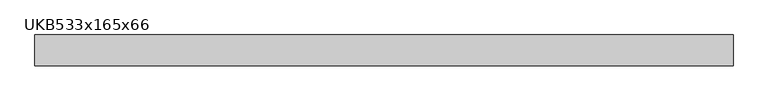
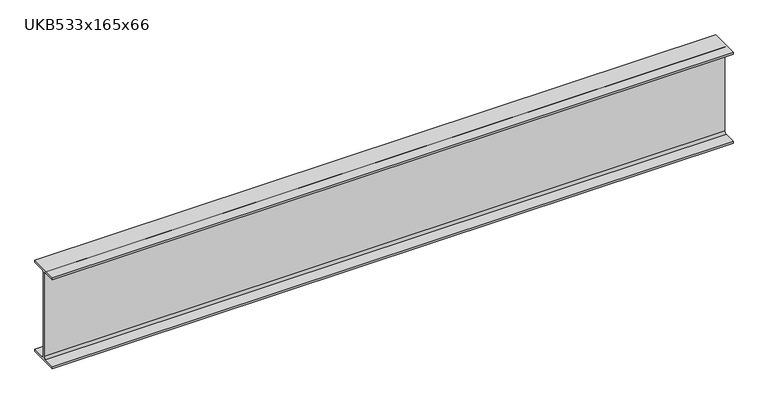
"""IFC4 building model written with IfcOpenShell, lengths in millimetres: beam geometry, UKB-UK Beams : UKB533x165x66."""

import ifcopenshell
import ifcopenshell.guid

model = None  # the IFC model being written
_history = None  # IfcOwnerHistory: only IFC2X3 demands one
_inside = {}  # id of a spatial element -> (the spatial element, [elements in it])
_under = {}  # id of a project, library or spatial element -> (it, [spatial elements below it])
_declared = {}  # id of a project -> (the project, [libraries it declares])
_typed = {}  # id of a type object -> (the type object, [elements of that type])
_made_of = {}  # id of a material, layer set ... -> (it, [elements and type objects made of it])


def new_model(schema):
    """Start an empty IFC model of exactly this schema.

    Asked for "IFC4X3", IfcOpenShell would pick the latest addendum, in which some entities
    have other attributes; the version numbers below select the first issue.
    IFC2X3 requires an IfcOwnerHistory on every rooted entity: one is made here for all.
    """
    global model, _history
    if schema == "IFC4X3":
        model = ifcopenshell.file(schema_version=(4, 3, 0, 0))
    else:
        model = ifcopenshell.file(schema=schema)
    _inside.clear()
    _under.clear()
    _declared.clear()
    _typed.clear()
    _made_of.clear()
    _history = None
    if model.schema == "IFC2X3":
        org = make("IfcOrganization", Name="unknown")
        user = make(
            "IfcPersonAndOrganization",
            ThePerson=make("IfcPerson", FamilyName="unknown"),
            TheOrganization=org,
        )
        app = make(
            "IfcApplication",
            ApplicationDeveloper=org,
            Version="unknown",
            ApplicationFullName="unknown",
            ApplicationIdentifier="unknown",
        )
        _history = make(
            "IfcOwnerHistory",
            OwningUser=user,
            OwningApplication=app,
            ChangeAction="ADDED",
            CreationDate=0,
        )
    return model


def make(cls, **values):
    """One entity of the class cls with the attributes given. An attribute that is None is left unset."""
    return model.create_entity(
        cls, **{name: value for name, value in values.items() if value is not None}
    )


def rooted(cls, **values):
    """An entity with a GlobalId (a new one), such as an element, a storey or a relation."""
    return make(cls, GlobalId=ifcopenshell.guid.new(), OwnerHistory=_history, **values)


def si_unit(unit_type, name, prefix=None):
    """IfcSIUnit, for example si_unit("LENGTHUNIT", "METRE", prefix="MILLI")."""
    return make("IfcSIUnit", UnitType=unit_type, Prefix=prefix, Name=name)


def assignment(units):
    """IfcUnitAssignment: the units of a project."""
    return None if units is None else make("IfcUnitAssignment", Units=units)


def point(xyz):
    """IfcCartesianPoint."""
    return None if xyz is None else make("IfcCartesianPoint", Coordinates=xyz)


def direction(xyz):
    """IfcDirection."""
    return None if xyz is None else make("IfcDirection", DirectionRatios=xyz)


def frame(location, z_axis=None, x_axis=None):
    """IfcAxis2Placement3D, a coordinate frame: its origin and axes. An axis left out is left unset."""
    return make(
        "IfcAxis2Placement3D",
        Location=point(location),
        Axis=direction(z_axis),
        RefDirection=direction(x_axis),
    )


def frame_2d(location, x_axis=None):
    """IfcAxis2Placement2D, a coordinate frame in the plane: its origin and x axis."""
    return make(
        "IfcAxis2Placement2D", Location=point(location), RefDirection=direction(x_axis)
    )


def origin():
    """The frame at (0, 0, 0) with its axes left unset."""
    return frame((0.0, 0.0, 0.0))


def place(relative_to, where):
    """IfcLocalPlacement: puts the frame where relative to a parent placement (None: the world)."""
    return make(
        "IfcLocalPlacement", PlacementRelTo=relative_to, RelativePlacement=where
    )


def context(
    kind, dimensions, precision=None, world=None, true_north=None, identifier=None
):
    """IfcGeometricRepresentationContext, for example the 3D "Model" context."""
    return make(
        "IfcGeometricRepresentationContext",
        ContextIdentifier=identifier,
        ContextType=kind,
        CoordinateSpaceDimension=dimensions,
        Precision=precision,
        WorldCoordinateSystem=world,
        TrueNorth=true_north,
    )


def project(units=None, contexts=None):
    """IfcProject with its units and contexts."""
    return rooted(
        "IfcProject",
        Name="project",
        RepresentationContexts=contexts,
        UnitsInContext=assignment(units),
    )


def spatial(cls, under=None, at=None, **own):
    """A site, building, storey or space (cls), placed at a placement, below another one or the project."""
    s = rooted(cls, ObjectPlacement=at, **own)
    if under is not None:
        _under.setdefault(under.id(), (under, []))[1].append(s)
    return s


def polyline(points):
    """IfcPolyline through the points."""
    return make("IfcPolyline", Points=[point(p) for p in points])


def circle_curve(where, radius):
    """IfcCircle in the frame where."""
    return make("IfcCircle", Position=where, Radius=radius)


def trimmed(basis, trim1, trim2, sense, master):
    """IfcTrimmedCurve: the piece of a basis curve between two trims."""
    return make(
        "IfcTrimmedCurve",
        BasisCurve=basis,
        Trim1=trim1,
        Trim2=trim2,
        SenseAgreement=sense,
        MasterRepresentation=master,
    )


def segment(curve, same_sense, transition):
    """IfcCompositeCurveSegment."""
    return make(
        "IfcCompositeCurveSegment",
        Transition=transition,
        SameSense=same_sense,
        ParentCurve=curve,
    )


def composite_curve(segments, self_intersect=None):
    """IfcCompositeCurve: segments joined end to end."""
    return make("IfcCompositeCurve", Segments=segments, SelfIntersect=self_intersect)


def outline(outer, holes=None, kind="AREA"):
    """IfcArbitraryClosedProfileDef: a profile drawn as a closed curve; with holes, ...WithVoids."""
    if holes is None:
        return make("IfcArbitraryClosedProfileDef", ProfileType=kind, OuterCurve=outer)
    return make(
        "IfcArbitraryProfileDefWithVoids",
        ProfileType=kind,
        OuterCurve=outer,
        InnerCurves=holes,
    )


def extrude(swept, where, along, depth):
    """IfcExtrudedAreaSolid: the profile swept, set in the frame where, extruded along a direction by depth."""
    return make(
        "IfcExtrudedAreaSolid",
        SweptArea=swept,
        Position=where,
        ExtrudedDirection=direction(along),
        Depth=depth,
    )


def shape(context_of_items, identifier, shape_type, items):
    """IfcShapeRepresentation: the items that make up one representation, for example the "Body"."""
    return make(
        "IfcShapeRepresentation",
        ContextOfItems=context_of_items,
        RepresentationIdentifier=identifier,
        RepresentationType=shape_type,
        Items=items,
    )


def source(mapping_origin, context_of_items, identifier, shape_type, items):
    """IfcRepresentationMap: a shape defined once, which mapped items show again and again."""
    return make(
        "IfcRepresentationMap",
        MappingOrigin=mapping_origin,
        MappedRepresentation=shape(context_of_items, identifier, shape_type, items),
    )


def transform(
    local_origin,
    x_axis=None,
    y_axis=None,
    z_axis=None,
    scale=None,
    scale2=None,
    scale3=None,
    uniform=True,
):
    """IfcCartesianTransformationOperator3D, or its non-uniform kind. x_axis, y_axis, z_axis: its Axis1, 2, 3."""
    if uniform:
        return make(
            "IfcCartesianTransformationOperator3D",
            Axis1=direction(x_axis),
            Axis2=direction(y_axis),
            LocalOrigin=point(local_origin),
            Scale=scale,
            Axis3=direction(z_axis),
        )
    return make(
        "IfcCartesianTransformationOperator3DnonUniform",
        Axis1=direction(x_axis),
        Axis2=direction(y_axis),
        LocalOrigin=point(local_origin),
        Scale=scale,
        Axis3=direction(z_axis),
        Scale2=scale2,
        Scale3=scale3,
    )


def mapped(mapping_source, mapping_target):
    """IfcMappedItem: shows the shape of a source again, moved by a transform."""
    return make(
        "IfcMappedItem", MappingSource=mapping_source, MappingTarget=mapping_target
    )


def made_of(thing, what):
    """Note that an element or type object is made of a material, layer set ...; save() writes the relation."""
    if what is not None:
        _made_of.setdefault(what.id(), (what, []))[1].append(thing)
    return thing


def element(
    cls,
    number,
    at=None,
    inside=None,
    cuts=None,
    type_object=None,
    material=None,
    context=None,
    identifier="Body",
    shape_type=None,
    held_by="IfcProductDefinitionShape",
    body=None,
    shapes=None,
    **own,
):
    """One element of the class cls, such as IfcWall. Its Tag is "e" and its number.

    at: its placement. inside: the storey or other place that contains it. cuts: it is an
    opening in that element (IfcRelVoidsElement). A single representation is given by context,
    identifier, shape_type and body (its items); several are given by shapes. held_by: the class
    of the entity that holds the representations. save() writes the other relations.
    """
    e = rooted(cls, Tag="e%d" % number, ObjectPlacement=at, **own)
    if body is not None:
        shapes = [shape(context, identifier, shape_type, body)]
    if shapes is not None:
        e.Representation = make(held_by, Representations=shapes)
    if inside is not None:
        _inside.setdefault(inside.id(), (inside, []))[1].append(e)
    if cuts is not None:
        rooted(
            "IfcRelVoidsElement", RelatingBuildingElement=cuts, RelatedOpeningElement=e
        )
    if type_object is not None:
        _typed.setdefault(type_object.id(), (type_object, []))[1].append(e)
    return made_of(e, material)


def aggregate(whole, parts):
    """IfcRelAggregates: a whole, such as a stair, and the parts it consists of."""
    return rooted("IfcRelAggregates", RelatingObject=whole, RelatedObjects=parts)


def save(model, path):
    """Write the relations noted so far, then the file.

    IfcRelAggregates (storeys below a building ...), IfcRelContainedInSpatialStructure (elements
    in a storey), IfcRelDefinesByType, IfcRelAssociatesMaterial and IfcRelDeclares: one each for
    every whole, place, type object, material and project.
    """
    for whole, parts in _under.values():
        aggregate(whole, parts)
    for where, things in _inside.values():
        rooted(
            "IfcRelContainedInSpatialStructure",
            RelatedElements=things,
            RelatingStructure=where,
        )
    for kind, things in _typed.values():
        rooted("IfcRelDefinesByType", RelatedObjects=things, RelatingType=kind)
    for what, things in _made_of.values():
        rooted("IfcRelAssociatesMaterial", RelatedObjects=things, RelatingMaterial=what)
    for by, libraries in _declared.values():
        rooted("IfcRelDeclares", RelatingContext=by, RelatedDefinitions=libraries)
    model.write(path)


def ukb533x165x66_11c455e5(model_context):
    return source(origin(), model_context, "Body", "SweptSolid", [
        extrude(outline(composite_curve([segment(polyline([(82.55, -250.95), (82.55, -262.35), (-82.55, -262.35), (-82.55, -250.95), (-17.15, -250.95)]), True, "CONTINUOUS"), segment(trimmed(circle_curve(frame_2d((-17.15, -238.25)), 12.7), [point((-17.15, -250.95))], [point((-4.45, -238.25))], True, "CARTESIAN"), True, "CONTINUOUS"), segment(polyline([(-4.45, -238.25), (-4.45, 238.25)]), True, "CONTINUOUS"), segment(trimmed(circle_curve(frame_2d((-17.15, 238.25)), 12.7), [point((-4.45, 238.25))], [point((-17.15, 250.95))], True, "CARTESIAN"), True, "CONTINUOUS"), segment(polyline([(-17.15, 250.95), (-82.55, 250.95), (-82.55, 262.35), (82.55, 262.35), (82.55, 250.95), (17.15, 250.95)]), True, "CONTINUOUS"), segment(trimmed(circle_curve(frame_2d((17.15, 238.25)), 12.7), [point((17.15, 250.95))], [point((4.45, 238.25))], True, "CARTESIAN"), True, "CONTINUOUS"), segment(polyline([(4.45, 238.25), (4.45, -238.25)]), True, "CONTINUOUS"), segment(trimmed(circle_curve(frame_2d((17.15, -238.25)), 12.7), [point((4.45, -238.25))], [point((17.15, -250.95))], True, "CARTESIAN"), True, "CONTINUOUS"), segment(polyline([(17.15, -250.95), (82.55, -250.95)]), True, "CONTINUOUS")], self_intersect=False)), frame((-1858.0, 0.0, 0.0), z_axis=(1.0, 0.0, 0.0), x_axis=(0.0, 1.0, 0.0)), (0.0, 0.0, 1.0), 3716.0),
    ])


if __name__ == "__main__":
    model = new_model("IFC4")
    model_context = context("Model", 3, world=origin())
    ifc_project = project(units=[si_unit("LENGTHUNIT", "METRE", prefix="MILLI")], contexts=[model_context])
    site = spatial("IfcSite", under=ifc_project)
    building = spatial("IfcBuilding", under=site)
    placement = place(None, origin())
    ukb533x165x66_shape = ukb533x165x66_11c455e5(model_context)
    element("IfcBeam", 1, ObjectType="UKB-UK Beams : UKB533x165x66", at=placement, inside=building, context=model_context, shape_type="MappedRepresentation", body=[
        mapped(ukb533x165x66_shape, transform((0.0, 0.0, 0.0), x_axis=(1.0, 0.0, 0.0), y_axis=(0.0, 1.0, 0.0), z_axis=(0.0, 0.0, 1.0))),
    ])
    save(model, "model.ifc")
